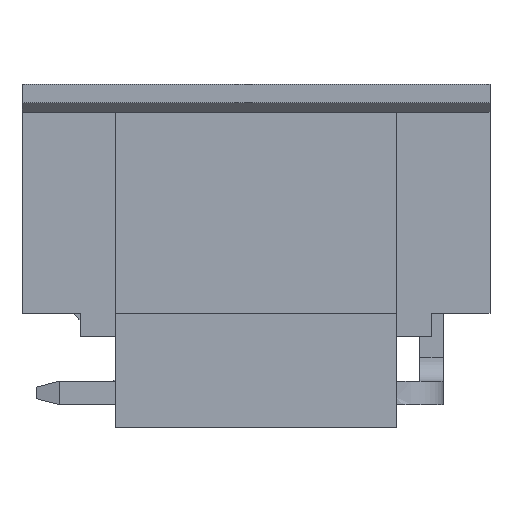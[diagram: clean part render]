
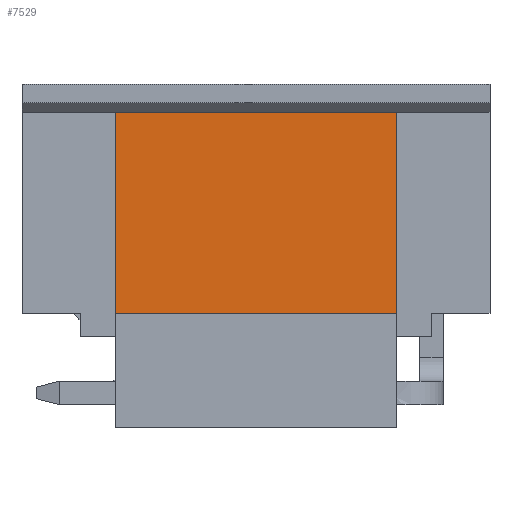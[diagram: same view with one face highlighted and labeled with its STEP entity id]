
A CAD part, front view. The second image highlights one B-rep face of the part: STEP entity #7529.
In plain terms, the highlighted free-form (B-spline) face has degree [1, 1] with [2, 2] control points.
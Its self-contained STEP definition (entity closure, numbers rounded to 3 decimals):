
#417 = B_SPLINE_SURFACE_WITH_KNOTS('',1,1,(
    (#418,#419)
    ,(#420,#421)),.UNSPECIFIED.,.F.,.F.,.F.,(2,2),(2,2),(0.,1.),(0.,1.),
  .PIECEWISE_BEZIER_KNOTS.);
#418 = CARTESIAN_POINT('',(-0.371,-5.521,
    -1.2));
#419 = CARTESIAN_POINT('',(20.371,-5.521,
    -1.2));
#420 = CARTESIAN_POINT('',(-0.371,15.221,
    -1.2));
#421 = CARTESIAN_POINT('',(20.371,15.221,
    -1.2));
#1673 = B_SPLINE_SURFACE_WITH_KNOTS('',1,1,(
    (#1674,#1675)
    ,(#1676,#1677
    )),.UNSPECIFIED.,.F.,.F.,.F.,(2,2),(2,2),(0.,1.),(0.,1.),
  .PIECEWISE_BEZIER_KNOTS.);
#1674 = CARTESIAN_POINT('',(4.,14.126,0.726));
#1675 = CARTESIAN_POINT('',(4.,-3.226,0.726));
#1676 = CARTESIAN_POINT('',(4.,14.126,-16.626));
#1677 = CARTESIAN_POINT('',(4.,-3.226,-16.626));
#2058 = VERTEX_POINT('',#2059);
#2059 = CARTESIAN_POINT('',(4.,2.9,-1.2));
#2077 = EDGE_CURVE('',#2058,#2078,#2080,.T.);
#2078 = VERTEX_POINT('',#2079);
#2079 = CARTESIAN_POINT('',(16.,2.9,-1.2));
#2080 = SURFACE_CURVE('',#2081,(#2084,#2090),.PCURVE_S1.);
#2081 = B_SPLINE_CURVE_WITH_KNOTS('',1,(#2082,#2083),.UNSPECIFIED.,.F.,
  .F.,(2,2),(0.,1.),.PIECEWISE_BEZIER_KNOTS.);
#2082 = CARTESIAN_POINT('',(4.,2.9,-1.2));
#2083 = CARTESIAN_POINT('',(16.,2.9,-1.2));
#2084 = PCURVE('',#417,#2085);
#2085 = DEFINITIONAL_REPRESENTATION('',(#2086),#2089);
#2086 = B_SPLINE_CURVE_WITH_KNOTS('',1,(#2087,#2088),.UNSPECIFIED.,.F.,
  .F.,(2,2),(0.,1.),.PIECEWISE_BEZIER_KNOTS.);
#2087 = CARTESIAN_POINT('',(0.406,0.211));
#2088 = CARTESIAN_POINT('',(0.406,0.789));
#2089 = ( GEOMETRIC_REPRESENTATION_CONTEXT(2) 
PARAMETRIC_REPRESENTATION_CONTEXT() REPRESENTATION_CONTEXT('2D SPACE',''
  ) );
#2090 = PCURVE('',#2091,#2096);
#2091 = B_SPLINE_SURFACE_WITH_KNOTS('',1,1,(
    (#2092,#2093)
    ,(#2094,#2095
    )),.UNSPECIFIED.,.F.,.F.,.F.,(2,2),(2,2),(0.,1.),(0.,1.),
  .PIECEWISE_BEZIER_KNOTS.);
#2092 = CARTESIAN_POINT('',(2.618,2.9,1.882));
#2093 = CARTESIAN_POINT('',(17.382,2.9,1.882));
#2094 = CARTESIAN_POINT('',(2.618,2.9,-12.882));
#2095 = CARTESIAN_POINT('',(17.382,2.9,-12.882));
#2096 = DEFINITIONAL_REPRESENTATION('',(#2097),#2100);
#2097 = B_SPLINE_CURVE_WITH_KNOTS('',1,(#2098,#2099),.UNSPECIFIED.,.F.,
  .F.,(2,2),(0.,1.),.PIECEWISE_BEZIER_KNOTS.);
#2098 = CARTESIAN_POINT('',(0.209,0.094));
#2099 = CARTESIAN_POINT('',(0.209,0.906));
#2100 = ( GEOMETRIC_REPRESENTATION_CONTEXT(2) 
PARAMETRIC_REPRESENTATION_CONTEXT() REPRESENTATION_CONTEXT('2D SPACE',''
  ) );
#2116 = B_SPLINE_SURFACE_WITH_KNOTS('',1,1,(
    (#2117,#2118)
    ,(#2119,#2120
    )),.UNSPECIFIED.,.F.,.F.,.F.,(2,2),(2,2),(0.,1.),(0.,1.),
  .PIECEWISE_BEZIER_KNOTS.);
#2117 = CARTESIAN_POINT('',(16.,-3.226,0.726));
#2118 = CARTESIAN_POINT('',(16.,14.126,0.726));
#2119 = CARTESIAN_POINT('',(16.,-3.226,-16.626));
#2120 = CARTESIAN_POINT('',(16.,14.126,-16.626));
#7529 = ADVANCED_FACE('',(#7530),#2091,.T.);
#7530 = FACE_BOUND('',#7531,.T.);
#7531 = EDGE_LOOP('',(#7532,#7559,#7577,#7578));
#7532 = ORIENTED_EDGE('',*,*,#7533,.T.);
#7533 = EDGE_CURVE('',#7534,#7536,#7538,.T.);
#7534 = VERTEX_POINT('',#7535);
#7535 = CARTESIAN_POINT('',(4.,2.9,-9.8));
#7536 = VERTEX_POINT('',#7537);
#7537 = CARTESIAN_POINT('',(16.,2.9,-9.8));
#7538 = SURFACE_CURVE('',#7539,(#7542,#7548),.PCURVE_S1.);
#7539 = B_SPLINE_CURVE_WITH_KNOTS('',1,(#7540,#7541),.UNSPECIFIED.,.F.,
  .F.,(2,2),(0.,1.),.PIECEWISE_BEZIER_KNOTS.);
#7540 = CARTESIAN_POINT('',(4.,2.9,-9.8));
#7541 = CARTESIAN_POINT('',(16.,2.9,-9.8));
#7542 = PCURVE('',#2091,#7543);
#7543 = DEFINITIONAL_REPRESENTATION('',(#7544),#7547);
#7544 = B_SPLINE_CURVE_WITH_KNOTS('',1,(#7545,#7546),.UNSPECIFIED.,.F.,
  .F.,(2,2),(0.,1.),.PIECEWISE_BEZIER_KNOTS.);
#7545 = CARTESIAN_POINT('',(0.791,0.094));
#7546 = CARTESIAN_POINT('',(0.791,0.906));
#7547 = ( GEOMETRIC_REPRESENTATION_CONTEXT(2) 
PARAMETRIC_REPRESENTATION_CONTEXT() REPRESENTATION_CONTEXT('2D SPACE',''
  ) );
#7548 = PCURVE('',#7549,#7554);
#7549 = B_SPLINE_SURFACE_WITH_KNOTS('',1,1,(
    (#7550,#7551)
    ,(#7552,#7553
    )),.UNSPECIFIED.,.F.,.F.,.F.,(2,2),(2,2),(0.,1.),(0.,1.),
  .PIECEWISE_BEZIER_KNOTS.);
#7550 = CARTESIAN_POINT('',(16.173,-4.723,
    -9.8));
#7551 = CARTESIAN_POINT('',(3.827,-4.723,
    -9.8));
#7552 = CARTESIAN_POINT('',(16.173,7.623,
    -9.8));
#7553 = CARTESIAN_POINT('',(3.827,7.623,
    -9.8));
#7554 = DEFINITIONAL_REPRESENTATION('',(#7555),#7558);
#7555 = B_SPLINE_CURVE_WITH_KNOTS('',1,(#7556,#7557),.UNSPECIFIED.,.F.,
  .F.,(2,2),(0.,1.),.PIECEWISE_BEZIER_KNOTS.);
#7556 = CARTESIAN_POINT('',(0.617,0.986));
#7557 = CARTESIAN_POINT('',(0.617,0.014));
#7558 = ( GEOMETRIC_REPRESENTATION_CONTEXT(2) 
PARAMETRIC_REPRESENTATION_CONTEXT() REPRESENTATION_CONTEXT('2D SPACE',''
  ) );
#7559 = ORIENTED_EDGE('',*,*,#7560,.T.);
#7560 = EDGE_CURVE('',#7536,#2078,#7561,.T.);
#7561 = SURFACE_CURVE('',#7562,(#7565,#7571),.PCURVE_S1.);
#7562 = B_SPLINE_CURVE_WITH_KNOTS('',1,(#7563,#7564),.UNSPECIFIED.,.F.,
  .F.,(2,2),(0.,1.),.PIECEWISE_BEZIER_KNOTS.);
#7563 = CARTESIAN_POINT('',(16.,2.9,-9.8));
#7564 = CARTESIAN_POINT('',(16.,2.9,-1.2));
#7565 = PCURVE('',#2091,#7566);
#7566 = DEFINITIONAL_REPRESENTATION('',(#7567),#7570);
#7567 = B_SPLINE_CURVE_WITH_KNOTS('',1,(#7568,#7569),.UNSPECIFIED.,.F.,
  .F.,(2,2),(0.,1.),.PIECEWISE_BEZIER_KNOTS.);
#7568 = CARTESIAN_POINT('',(0.791,0.906));
#7569 = CARTESIAN_POINT('',(0.209,0.906));
#7570 = ( GEOMETRIC_REPRESENTATION_CONTEXT(2) 
PARAMETRIC_REPRESENTATION_CONTEXT() REPRESENTATION_CONTEXT('2D SPACE',''
  ) );
#7571 = PCURVE('',#2116,#7572);
#7572 = DEFINITIONAL_REPRESENTATION('',(#7573),#7576);
#7573 = B_SPLINE_CURVE_WITH_KNOTS('',1,(#7574,#7575),.UNSPECIFIED.,.F.,
  .F.,(2,2),(0.,1.),.PIECEWISE_BEZIER_KNOTS.);
#7574 = CARTESIAN_POINT('',(0.607,0.353));
#7575 = CARTESIAN_POINT('',(0.111,0.353));
#7576 = ( GEOMETRIC_REPRESENTATION_CONTEXT(2) 
PARAMETRIC_REPRESENTATION_CONTEXT() REPRESENTATION_CONTEXT('2D SPACE',''
  ) );
#7577 = ORIENTED_EDGE('',*,*,#2077,.F.);
#7578 = ORIENTED_EDGE('',*,*,#7579,.F.);
#7579 = EDGE_CURVE('',#7534,#2058,#7580,.T.);
#7580 = SURFACE_CURVE('',#7581,(#7584,#7590),.PCURVE_S1.);
#7581 = B_SPLINE_CURVE_WITH_KNOTS('',1,(#7582,#7583),.UNSPECIFIED.,.F.,
  .F.,(2,2),(0.,1.),.PIECEWISE_BEZIER_KNOTS.);
#7582 = CARTESIAN_POINT('',(4.,2.9,-9.8));
#7583 = CARTESIAN_POINT('',(4.,2.9,-1.2));
#7584 = PCURVE('',#2091,#7585);
#7585 = DEFINITIONAL_REPRESENTATION('',(#7586),#7589);
#7586 = B_SPLINE_CURVE_WITH_KNOTS('',1,(#7587,#7588),.UNSPECIFIED.,.F.,
  .F.,(2,2),(0.,1.),.PIECEWISE_BEZIER_KNOTS.);
#7587 = CARTESIAN_POINT('',(0.791,0.094));
#7588 = CARTESIAN_POINT('',(0.209,0.094));
#7589 = ( GEOMETRIC_REPRESENTATION_CONTEXT(2) 
PARAMETRIC_REPRESENTATION_CONTEXT() REPRESENTATION_CONTEXT('2D SPACE',''
  ) );
#7590 = PCURVE('',#1673,#7591);
#7591 = DEFINITIONAL_REPRESENTATION('',(#7592),#7595);
#7592 = B_SPLINE_CURVE_WITH_KNOTS('',1,(#7593,#7594),.UNSPECIFIED.,.F.,
  .F.,(2,2),(0.,1.),.PIECEWISE_BEZIER_KNOTS.);
#7593 = CARTESIAN_POINT('',(0.607,0.647));
#7594 = CARTESIAN_POINT('',(0.111,0.647));
#7595 = ( GEOMETRIC_REPRESENTATION_CONTEXT(2) 
PARAMETRIC_REPRESENTATION_CONTEXT() REPRESENTATION_CONTEXT('2D SPACE',''
  ) );
